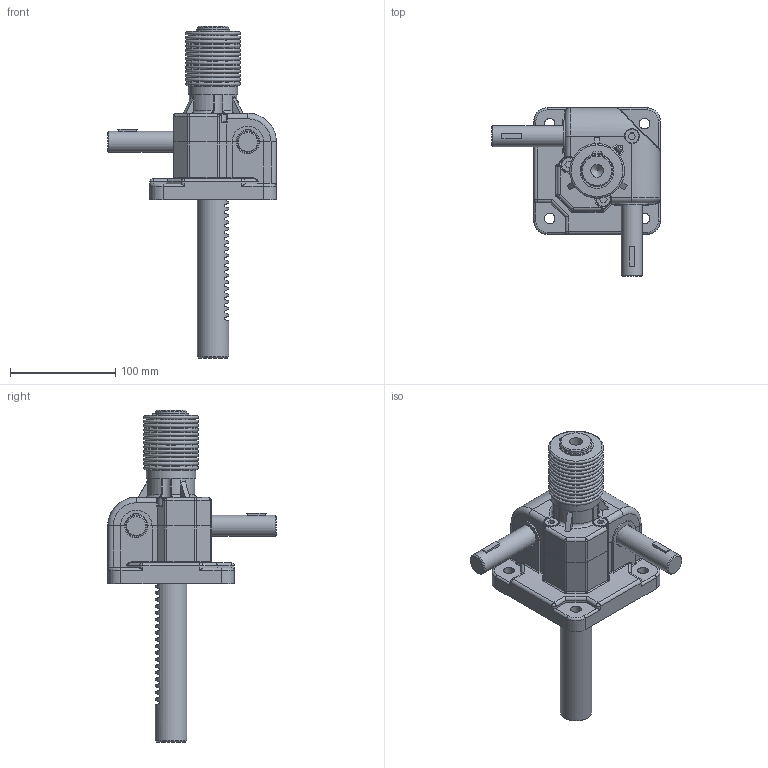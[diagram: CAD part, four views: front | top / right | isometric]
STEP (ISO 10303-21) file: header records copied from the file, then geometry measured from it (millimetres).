
FILE_DESCRIPTION(('STEP AP203'),'1');
FILE_NAME('SP1-900CJ-150ST.stp','2016-08-18T01:52:24',(' '),(' '),'Spatial InterOp 3D',' ',' ');
FILE_SCHEMA(('CONFIG_CONTROL_DESIGN'));
Length unit declared in the file: millimetre
Products named in the file (28): SP1-900CJ-150ST; SnapRing-28.8Pie; Rack Gear(SP-900C); Bellow(SP-900); Body-Part; Nipple; Bolt; Key; Shaft; Gear Box(Upper); Body_stand by; Gear Box(Lower); RJ05-4SCJ-610X600-100ST_CAP; LABEL-B.1; ___; 파트18; __ 
Assembly tree (27 placements, depth 6):
  SP1-900CJ-150ST
    SnapRing-28.8Pie
    Rack Gear(SP-900C)
    Bellow(SP-900)
    Body-Part
      Nipple
      Bolt
      Bolt
      Bolt
      Key
      Key
      Shaft
      Shaft
      Gear Box(Upper)
        Body_stand by
        Body_stand by
        Body_stand by
        Body_stand by
      Gear Box(Lower)
        Body_stand by
        Body_stand by
        Body_stand by
        Body_stand by
      __ 
        ___
          RJ05-4SCJ-610X600-100ST_CAP
            LABEL-B.1
          파트18
Bounding box: 160 x 160.22 x 315 mm (x, y, z)
Volume: 328428.8 mm3; surface area: 265041.3 mm2
Topology: 20 solids, 768 shells, 2963 faces, 10161 edges, 7976 vertices
Faces by surface type: plane 2142, cylinder 556, torus 110, cone 68, bspline 46, sphere 25, extrusion 9, revolution 7
Full cylindrical faces by diameter (mm): 1.869 x2, 3.113 x1, 6 x1, 6.6 x1, 8 x3, 12 x1, 14 x3, 20 x2, 28.8 x1, 30 x16, 45 x1, 47 x1
Entity records: 120331 total; most frequent: CARTESIAN_POINT 34445, DIRECTION 16671, ORIENTED_EDGE 15856, EDGE_CURVE 9861, VERTEX_POINT 7898, VECTOR 7160, LINE 7151, AXIS2_PLACEMENT_3D 4752
